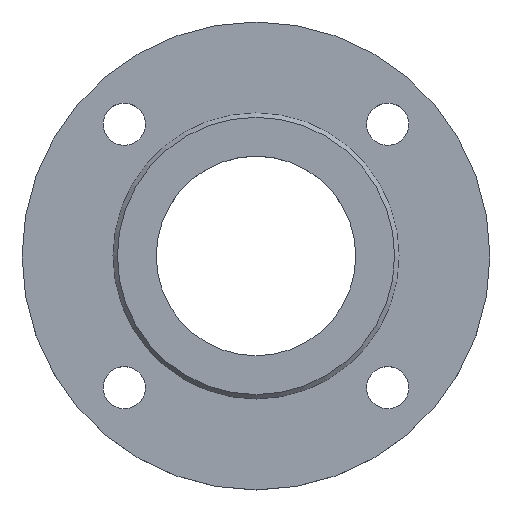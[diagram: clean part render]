
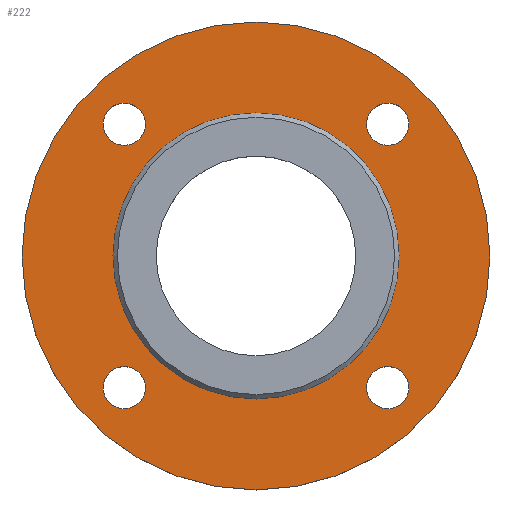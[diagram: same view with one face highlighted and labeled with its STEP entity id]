
A CAD part, top view. The second image highlights one B-rep face of the part: STEP entity #222.
In plain terms, the highlighted planar face has unit normal (0, 0, 1).
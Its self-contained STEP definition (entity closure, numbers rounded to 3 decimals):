
#16=FACE_BOUND('',#46,.T.);
#17=FACE_BOUND('',#47,.T.);
#18=FACE_BOUND('',#48,.T.);
#19=FACE_BOUND('',#49,.T.);
#20=FACE_BOUND('',#50,.T.);
#27=PLANE('',#267);
#35=FACE_OUTER_BOUND('',#45,.T.);
#45=EDGE_LOOP('',(#176,#177));
#46=EDGE_LOOP('',(#178));
#47=EDGE_LOOP('',(#179));
#48=EDGE_LOOP('',(#180));
#49=EDGE_LOOP('',(#181));
#50=EDGE_LOOP('',(#182,#183));
#80=CIRCLE('',#254,9.5);
#83=CIRCLE('',#258,9.5);
#86=CIRCLE('',#262,9.5);
#89=CIRCLE('',#266,9.5);
#90=CIRCLE('',#268,105.5);
#91=CIRCLE('',#269,105.5);
#92=CIRCLE('',#270,64.5);
#93=CIRCLE('',#271,64.5);
#103=VERTEX_POINT('',#369);
#106=VERTEX_POINT('',#377);
#109=VERTEX_POINT('',#385);
#112=VERTEX_POINT('',#393);
#113=VERTEX_POINT('',#397);
#114=VERTEX_POINT('',#398);
#115=VERTEX_POINT('',#401);
#116=VERTEX_POINT('',#402);
#128=EDGE_CURVE('',#103,#103,#80,.T.);
#132=EDGE_CURVE('',#106,#106,#83,.T.);
#136=EDGE_CURVE('',#109,#109,#86,.T.);
#140=EDGE_CURVE('',#112,#112,#89,.T.);
#141=EDGE_CURVE('',#113,#114,#90,.T.);
#142=EDGE_CURVE('',#114,#113,#91,.T.);
#143=EDGE_CURVE('',#115,#116,#92,.T.);
#144=EDGE_CURVE('',#116,#115,#93,.T.);
#176=ORIENTED_EDGE('',*,*,#141,.F.);
#177=ORIENTED_EDGE('',*,*,#142,.F.);
#178=ORIENTED_EDGE('',*,*,#128,.T.);
#179=ORIENTED_EDGE('',*,*,#132,.T.);
#180=ORIENTED_EDGE('',*,*,#136,.T.);
#181=ORIENTED_EDGE('',*,*,#140,.T.);
#182=ORIENTED_EDGE('',*,*,#143,.T.);
#183=ORIENTED_EDGE('',*,*,#144,.T.);
#222=ADVANCED_FACE('',(#35,#16,#17,#18,#19,#20),#27,.F.);
#254=AXIS2_PLACEMENT_3D('',#371,#298,#299);
#258=AXIS2_PLACEMENT_3D('',#379,#307,#308);
#262=AXIS2_PLACEMENT_3D('',#387,#316,#317);
#266=AXIS2_PLACEMENT_3D('',#395,#325,#326);
#267=AXIS2_PLACEMENT_3D('',#396,#327,#328);
#268=AXIS2_PLACEMENT_3D('',#399,#329,#330);
#269=AXIS2_PLACEMENT_3D('',#400,#331,#332);
#270=AXIS2_PLACEMENT_3D('',#403,#333,#334);
#271=AXIS2_PLACEMENT_3D('',#404,#335,#336);
#298=DIRECTION('center_axis',(0.,0.,-1.));
#299=DIRECTION('ref_axis',(0.,1.,0.));
#307=DIRECTION('center_axis',(0.,0.,-1.));
#308=DIRECTION('ref_axis',(1.,0.,0.));
#316=DIRECTION('center_axis',(0.,0.,-1.));
#317=DIRECTION('ref_axis',(0.,-1.,0.));
#325=DIRECTION('center_axis',(0.,0.,-1.));
#326=DIRECTION('ref_axis',(-1.,0.,0.));
#327=DIRECTION('center_axis',(0.,0.,-1.));
#328=DIRECTION('ref_axis',(-1.,0.,0.));
#329=DIRECTION('center_axis',(0.,0.,-1.));
#330=DIRECTION('ref_axis',(1.,0.,0.));
#331=DIRECTION('center_axis',(0.,0.,-1.));
#332=DIRECTION('ref_axis',(1.,0.,0.));
#333=DIRECTION('center_axis',(0.,0.,-1.));
#334=DIRECTION('ref_axis',(1.,0.,0.));
#335=DIRECTION('center_axis',(0.,0.,-1.));
#336=DIRECTION('ref_axis',(1.,0.,0.));
#369=CARTESIAN_POINT('',(-59.397,49.897,-2.));
#371=CARTESIAN_POINT('Origin',(-59.397,59.397,-2.));
#377=CARTESIAN_POINT('',(49.897,59.397,-2.));
#379=CARTESIAN_POINT('Origin',(59.397,59.397,-2.));
#385=CARTESIAN_POINT('',(59.397,-49.897,-2.));
#387=CARTESIAN_POINT('Origin',(59.397,-59.397,-2.));
#393=CARTESIAN_POINT('',(-49.897,-59.397,-2.));
#395=CARTESIAN_POINT('Origin',(-59.397,-59.397,-2.));
#396=CARTESIAN_POINT('Origin',(64.5,0.,-2.));
#397=CARTESIAN_POINT('',(105.5,0.,-2.));
#398=CARTESIAN_POINT('',(-105.5,0.,-2.));
#399=CARTESIAN_POINT('Origin',(0.,0.,-2.));
#400=CARTESIAN_POINT('Origin',(0.,0.,-2.));
#401=CARTESIAN_POINT('',(64.5,0.,-2.));
#402=CARTESIAN_POINT('',(-64.5,0.,-2.));
#403=CARTESIAN_POINT('Origin',(0.,0.,-2.));
#404=CARTESIAN_POINT('Origin',(0.,0.,-2.));
